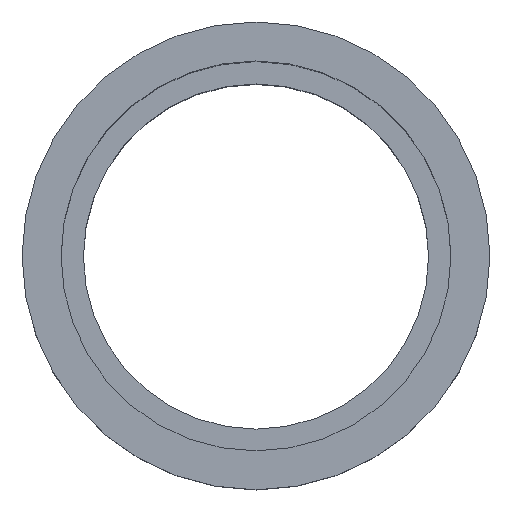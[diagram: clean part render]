
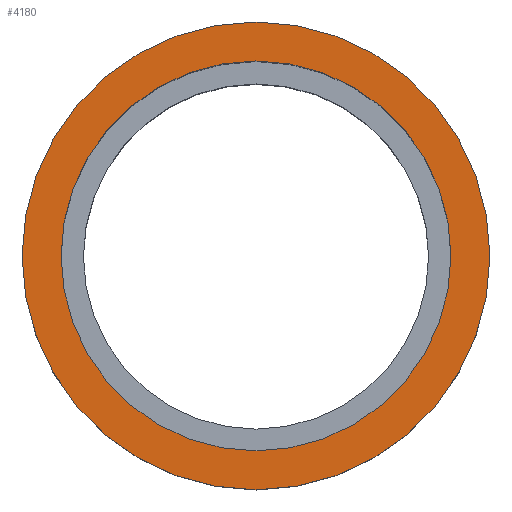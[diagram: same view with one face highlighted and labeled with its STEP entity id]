
A CAD part, top view. The second image highlights one B-rep face of the part: STEP entity #4180.
In plain terms, the highlighted planar face has unit normal (0, 0, 1) as drawn and (0, -1, 0) by its records, which use the part's own axes.
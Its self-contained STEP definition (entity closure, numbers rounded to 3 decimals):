
#3830=CARTESIAN_POINT('',(28.875,-60.34,35.85));
#3840=DIRECTION('',(0.,1.,0.));
#3850=DIRECTION('',(0.,0.,-1.));
#3860=AXIS2_PLACEMENT_3D('',#3830,#3840,#3850);
#3870=PLANE('',#3860);
#3880=CARTESIAN_POINT('',(28.875,-60.34,0.)
);
#3890=DIRECTION('',(0.,-1.,0.));
#3900=DIRECTION('',(0.,0.,1.));
#3910=AXIS2_PLACEMENT_3D('',#3880,#3890,#3900);
#3920=CIRCLE('',#3910,30.75);
#3930=CARTESIAN_POINT('',(28.875,-60.34,30.75));
#3940=VERTEX_POINT('',#3930);
#3950=CARTESIAN_POINT('',(28.875,-60.34,-30.75));
#3960=VERTEX_POINT('',#3950);
#3970=EDGE_CURVE('',#3940,#3960,#3920,.T.);
#3980=ORIENTED_EDGE('',*,*,#3970,.F.);
#3990=EDGE_CURVE('',#3960,#3940,#3920,.T.);
#4000=ORIENTED_EDGE('',*,*,#3990,.F.);
#4010=EDGE_LOOP('',(#4000,#3980));
#4020=FACE_BOUND('',#4010,.T.);
#4030=CARTESIAN_POINT('',(28.875,-60.34,0.))
;
#4040=DIRECTION('',(0.,-1.,0.));
#4050=DIRECTION('',(1.,0.,0.));
#4060=AXIS2_PLACEMENT_3D('',#4030,#4040,#4050);
#4070=CIRCLE('',#4060,36.9);
#4080=CARTESIAN_POINT('',(65.775,-60.34,0.))
;
#4090=VERTEX_POINT('',#4080);
#4100=CARTESIAN_POINT('',(-8.025,-60.34,0.)
);
#4110=VERTEX_POINT('',#4100);
#4120=EDGE_CURVE('',#4090,#4110,#4070,.T.);
#4130=ORIENTED_EDGE('',*,*,#4120,.T.);
#4140=EDGE_CURVE('',#4110,#4090,#4070,.T.);
#4150=ORIENTED_EDGE('',*,*,#4140,.T.);
#4160=EDGE_LOOP('',(#4150,#4130));
#4170=FACE_OUTER_BOUND('',#4160,.T.);
#4180=ADVANCED_FACE('',(#4020,#4170),#3870,.F.);
